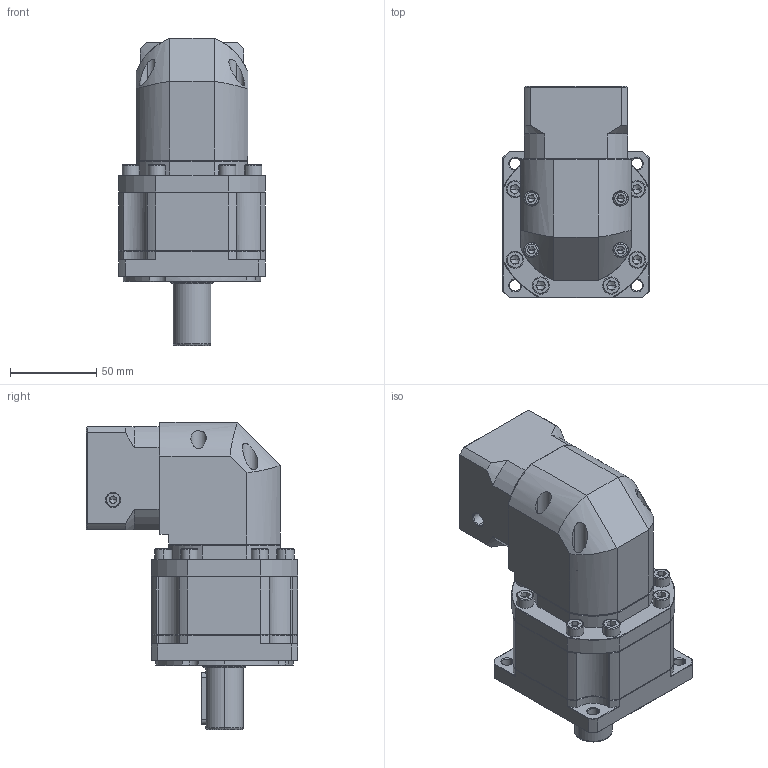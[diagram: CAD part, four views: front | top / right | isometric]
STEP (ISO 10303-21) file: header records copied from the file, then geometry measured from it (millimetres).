
FILE_DESCRIPTION (( 'STEP AP214' ), '1' );
FILE_NAME ('ZBR090-D22-L2-P2-11-50-70-M4.step', '2023-08-19T03:57:35', ( '' ), ( '' ), 'SwSTEP 2.0', 'SolidWorks 2016', '' );
FILE_SCHEMA (( 'AUTOMOTIVE_DESIGN' ));
Length unit declared in the file: millimetre
Products named in the file (1): ZBR090-D22-L2-P2-11-50-70-M4
Bounding box: 85 x 122.7 x 178.5 mm (x, y, z)
Volume: 802544 mm3; surface area: 99392.2 mm2
Topology: 5 solids, 5 shells, 2429 faces, 6458 edges, 4131 vertices
Faces by surface type: plane 1178, cylinder 437, bspline 426, cone 368, torus 20
Entity records: 127355 total; most frequent: CARTESIAN_POINT 43542, ORIENTED_EDGE 12824, DIRECTION 10335, EDGE_CURVE 6412, VERTEX_POINT 4131, VECTOR 4013, LINE 4013, AXIS2_PLACEMENT_3D 3161
